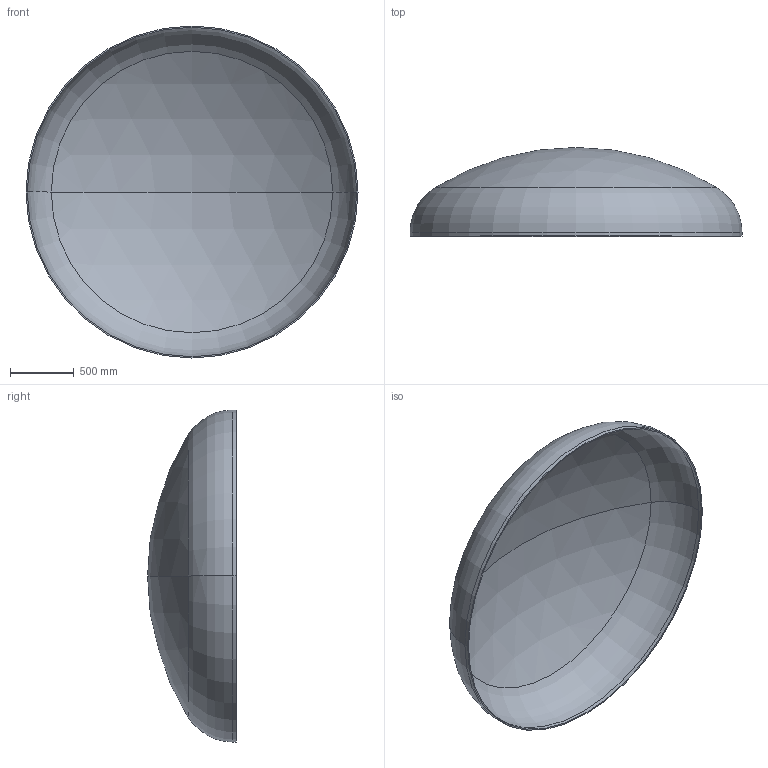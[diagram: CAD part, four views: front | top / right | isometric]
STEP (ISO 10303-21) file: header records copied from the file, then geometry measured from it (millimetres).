
FILE_DESCRIPTION (( 'STEP AP203' ), '1' );
FILE_NAME ('DIN 28013 Korbbogenform_-_Boden DIN 28013 - 2600 x 30 - I - s=10.step', '2016-07-01T15:52:52', ( '' ), ( '' ), 'SwSTEP 2.0', 'SolidWorks 2013', '' );
FILE_SCHEMA (( 'CONFIG_CONTROL_DESIGN' ));
Length unit declared in the file: millimetre
Products named in the file (1): DIN 28013 Korbbogenform_-_Boden DIN 28013 - 2600 x 30 - I - s=10
Bounding box: 2600 x 695.11 x 2600 mm (x, y, z)
Volume: 75590728.6 mm3; surface area: 15199716.3 mm2
Topology: 1 solids, 1 shells, 13 faces, 24 edges, 14 vertices
Faces by surface type: torus 4, cylinder 4, sphere 4, plane 1
Entity records: 407 total; most frequent: DIRECTION 72, CARTESIAN_POINT 52, ORIENTED_EDGE 48, AXIS2_PLACEMENT_3D 34, EDGE_CURVE 24, CIRCLE 20, VERTEX_POINT 14, EDGE_LOOP 14
